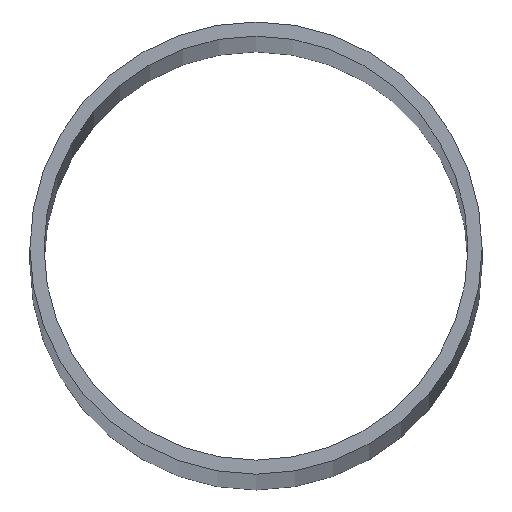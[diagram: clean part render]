
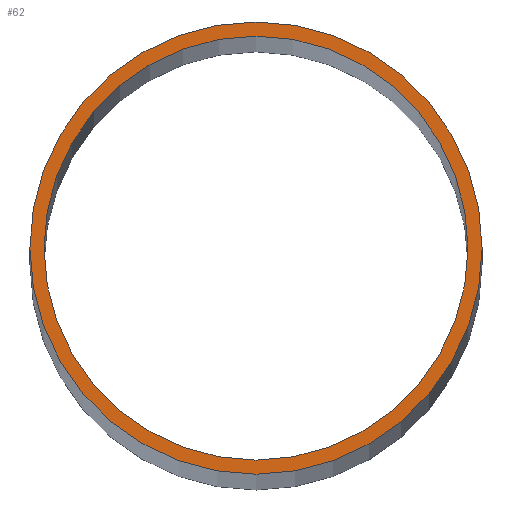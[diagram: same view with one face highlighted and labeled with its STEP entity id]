
A CAD part, top view. The second image highlights one B-rep face of the part: STEP entity #62.
In plain terms, the highlighted planar face has unit normal (0, 0, 1).
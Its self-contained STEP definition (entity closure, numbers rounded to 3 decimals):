
#15=PLANE('',#90);
#19=FACE_BOUND('',#31,.T.);
#23=FACE_OUTER_BOUND('',#30,.T.);
#30=EDGE_LOOP('',(#50));
#31=EDGE_LOOP('',(#51));
#32=CIRCLE('',#84,117.2);
#34=CIRCLE('',#87,125.);
#36=VERTEX_POINT('',#111);
#38=VERTEX_POINT('',#116);
#40=EDGE_CURVE('',#36,#36,#32,.T.);
#42=EDGE_CURVE('',#38,#38,#34,.T.);
#50=ORIENTED_EDGE('',*,*,#42,.T.);
#51=ORIENTED_EDGE('',*,*,#40,.T.);
#62=ADVANCED_FACE('',(#23,#19),#15,.T.);
#84=AXIS2_PLACEMENT_3D('',#112,#95,#96);
#87=AXIS2_PLACEMENT_3D('',#117,#101,#102);
#90=AXIS2_PLACEMENT_3D('',#121,#107,#108);
#95=DIRECTION('center_axis',(0.,0.,-1.));
#96=DIRECTION('ref_axis',(-1.,0.,0.));
#101=DIRECTION('center_axis',(0.,0.,1.));
#102=DIRECTION('ref_axis',(-1.,0.,0.));
#107=DIRECTION('center_axis',(0.,0.,1.));
#108=DIRECTION('ref_axis',(1.,0.,0.));
#111=CARTESIAN_POINT('',(117.2,0.,5000.));
#112=CARTESIAN_POINT('Origin',(0.,0.,5000.));
#116=CARTESIAN_POINT('',(125.,0.,5000.));
#117=CARTESIAN_POINT('Origin',(0.,0.,5000.));
#121=CARTESIAN_POINT('Origin',(0.,0.,5000.));
